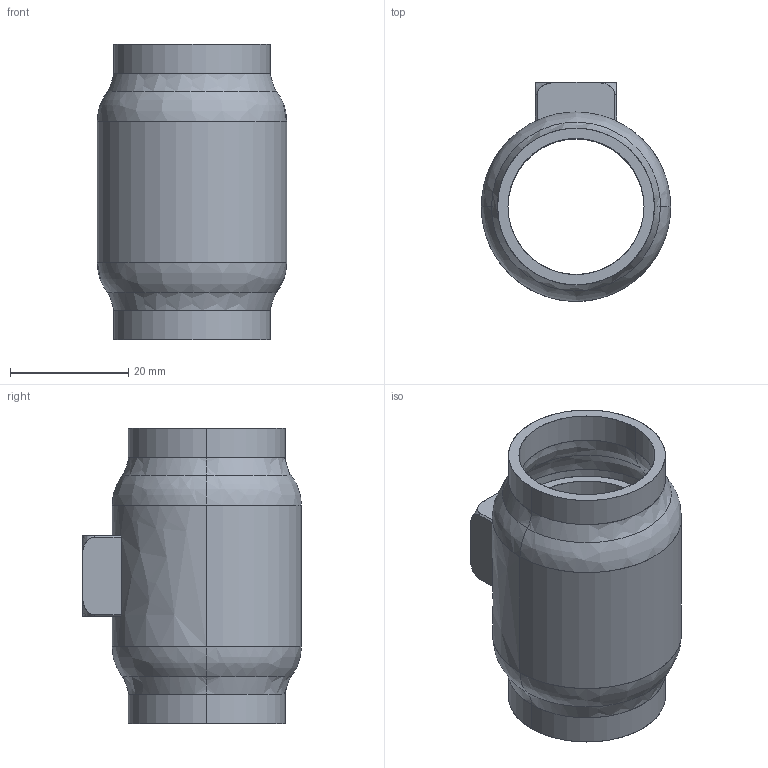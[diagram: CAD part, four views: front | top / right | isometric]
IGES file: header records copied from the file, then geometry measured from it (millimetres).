
Start section: SolidWorks IGES file using analytic representation for surfaces
Global section: file name: C:\HEMSIDA\cad\SLDPRT_2010\wn600\\wn600-22.igs; native system: SolidWorks 2010; preprocessor: SolidWorks 2010; author: Administrator; date: 101214.114938; units: millimetre
Bounding box: 32 x 37 x 50 mm (x, y, z)
Surface area: 13541 mm2 (no closed solid volume)
Topology: 0 solids, 0 shells, 56 faces, 828 edges, 828 vertices
Faces by surface type: bspline 29, revolution 27
